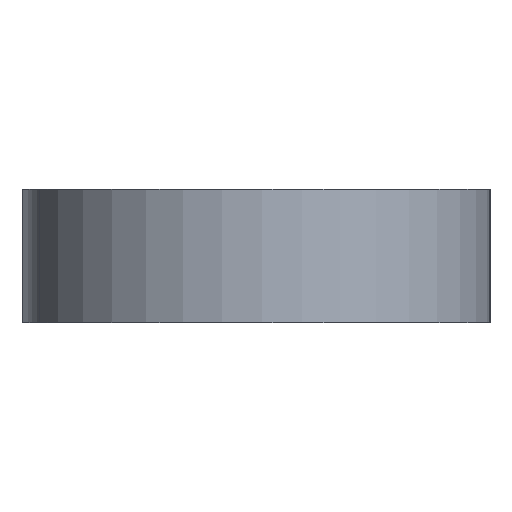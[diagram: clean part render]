
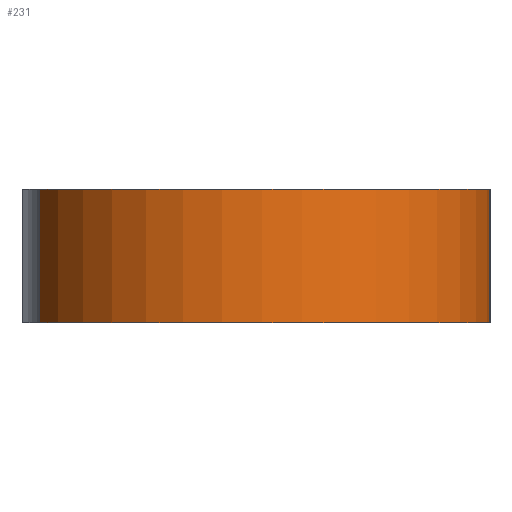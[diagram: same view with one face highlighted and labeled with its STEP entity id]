
A CAD part, left-side view. The second image highlights one B-rep face of the part: STEP entity #231.
In plain terms, the highlighted cylindrical face has radius 17.498 mm (diameter 34.996 mm), a partial arc.
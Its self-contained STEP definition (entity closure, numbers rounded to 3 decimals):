
#159 = EDGE_CURVE( '', #301, #383, #426, .T. );
#177 = EDGE_CURVE( '', #375, #383, #444, .T. );
#227 = VERTEX_POINT( '', #501 );
#231 = ADVANCED_FACE( '', ( #506 ), #507, .T. );
#255 = EDGE_CURVE( '', #227, #301, #532, .T. );
#301 = VERTEX_POINT( '', #582 );
#325 = EDGE_CURVE( '', #227, #375, #607, .T. );
#375 = VERTEX_POINT( '', #666 );
#383 = VERTEX_POINT( '', #675 );
#426 = LINE( '', #714, #715 );
#444 = CIRCLE( '', #743, 17.498 );
#501 = CARTESIAN_POINT( '', ( -11.197, -1.332, 5. ) );
#506 = FACE_OUTER_BOUND( '', #817, .T. );
#507 = CYLINDRICAL_SURFACE( '', #818, 17.498 );
#532 = CIRCLE( '', #856, 17.498 );
#582 = CARTESIAN_POINT( '', ( -4.501, -35., 5. ) );
#607 = LINE( '', #956, #957 );
#666 = CARTESIAN_POINT( '', ( -11.197, -1.332, -5. ) );
#675 = CARTESIAN_POINT( '', ( -4.501, -35., -5. ) );
#714 = CARTESIAN_POINT( '', ( -4.501, -35., 5. ) );
#715 = VECTOR( '', #1086, 1. );
#743 = AXIS2_PLACEMENT_3D( '', #1099, #1100, #1101 );
#817 = EDGE_LOOP( '', ( #1165, #1166, #1167, #1168 ) );
#818 = AXIS2_PLACEMENT_3D( '', #1169, #1170, #1171 );
#856 = AXIS2_PLACEMENT_3D( '', #1191, #1192, #1193 );
#956 = CARTESIAN_POINT( '', ( -11.197, -1.332, 5. ) );
#957 = VECTOR( '', #1272, 1. );
#1086 = DIRECTION( '', ( 0., 0., -1. ) );
#1099 = CARTESIAN_POINT( '', ( -4.511, -17.502, -5. ) );
#1100 = DIRECTION( '', ( 0., 0., 1. ) );
#1101 = DIRECTION( '', ( -0.382, 0.924, 0. ) );
#1165 = ORIENTED_EDGE( '', *, *, #177, .T. );
#1166 = ORIENTED_EDGE( '', *, *, #159, .F. );
#1167 = ORIENTED_EDGE( '', *, *, #255, .F. );
#1168 = ORIENTED_EDGE( '', *, *, #325, .T. );
#1169 = CARTESIAN_POINT( '', ( -4.511, -17.502, 5. ) );
#1170 = DIRECTION( '', ( 0., 0., 1. ) );
#1171 = DIRECTION( '', ( -0.382, 0.924, 0. ) );
#1191 = CARTESIAN_POINT( '', ( -4.511, -17.502, 5. ) );
#1192 = DIRECTION( '', ( 0., 0., 1. ) );
#1193 = DIRECTION( '', ( -0.382, 0.924, 0. ) );
#1272 = DIRECTION( '', ( 0., 0., -1. ) );
